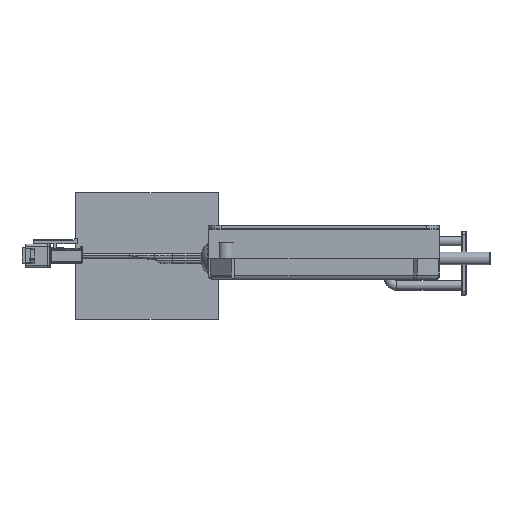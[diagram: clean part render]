
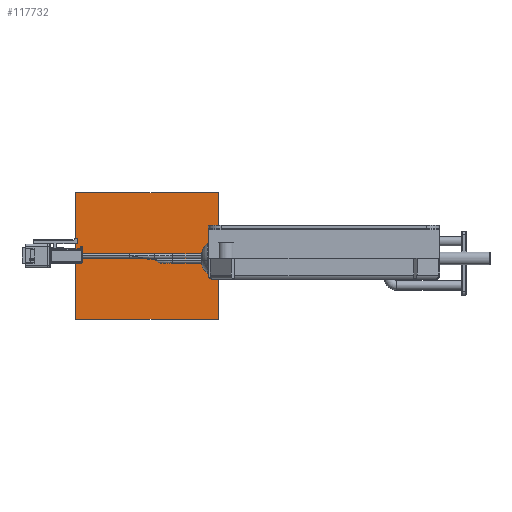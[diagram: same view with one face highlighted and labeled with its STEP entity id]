
A CAD part, top view. The second image highlights one B-rep face of the part: STEP entity #117732.
In plain terms, the highlighted planar face has unit normal (0, -1, 0) by its records, which use the part's own axes.
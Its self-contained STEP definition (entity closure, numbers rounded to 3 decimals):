
#117693=DIRECTION('',(0.,0.,-1.));
#117694=VECTOR('',#117693,40.);
#117695=CARTESIAN_POINT('',(0.,-5.,20.));
#117696=LINE('',#117695,#117694);
#117697=DIRECTION('',(-1.,0.,0.));
#117698=VECTOR('',#117697,45.);
#117699=CARTESIAN_POINT('',(0.,-5.,-20.));
#117700=LINE('',#117699,#117698);
#117701=DIRECTION('',(0.,0.,1.));
#117702=VECTOR('',#117701,40.);
#117703=CARTESIAN_POINT('',(-45.,-5.,-20.));
#117704=LINE('',#117703,#117702);
#117705=DIRECTION('',(1.,0.,0.));
#117706=VECTOR('',#117705,45.);
#117707=CARTESIAN_POINT('',(-45.,-5.,20.));
#117708=LINE('',#117707,#117706);
#117709=CARTESIAN_POINT('',(0.,-5.,-20.));
#117710=CARTESIAN_POINT('',(0.,-5.,20.));
#117711=VERTEX_POINT('',#117709);
#117712=VERTEX_POINT('',#117710);
#117713=CARTESIAN_POINT('',(-45.,-5.,-20.));
#117714=CARTESIAN_POINT('',(-45.,-5.,20.));
#117715=VERTEX_POINT('',#117713);
#117716=VERTEX_POINT('',#117714);
#117717=CARTESIAN_POINT('',(0.,-5.,-20.));
#117718=DIRECTION('',(0.,-1.,0.));
#117719=DIRECTION('',(0.,0.,1.));
#117720=AXIS2_PLACEMENT_3D('',#117717,#117718,#117719);
#117721=PLANE('',#117720);
#117723=ORIENTED_EDGE('',*,*,#117722,.T.);
#117725=ORIENTED_EDGE('',*,*,#117724,.T.);
#117727=ORIENTED_EDGE('',*,*,#117726,.T.);
#117729=ORIENTED_EDGE('',*,*,#117728,.T.);
#117730=EDGE_LOOP('',(#117723,#117725,#117727,#117729));
#117731=FACE_OUTER_BOUND('',#117730,.F.);
#117732=ADVANCED_FACE('',(#117731),#117721,.T.);
#117722=EDGE_CURVE('',#117712,#117711,#117696,.T.);
#117724=EDGE_CURVE('',#117711,#117715,#117700,.T.);
#117726=EDGE_CURVE('',#117715,#117716,#117704,.T.);
#117728=EDGE_CURVE('',#117716,#117712,#117708,.T.);
